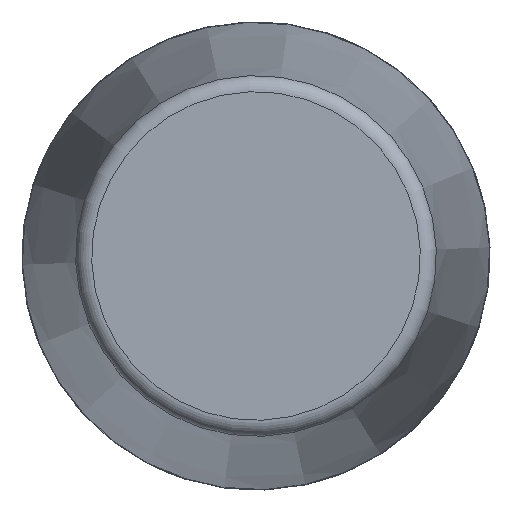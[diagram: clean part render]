
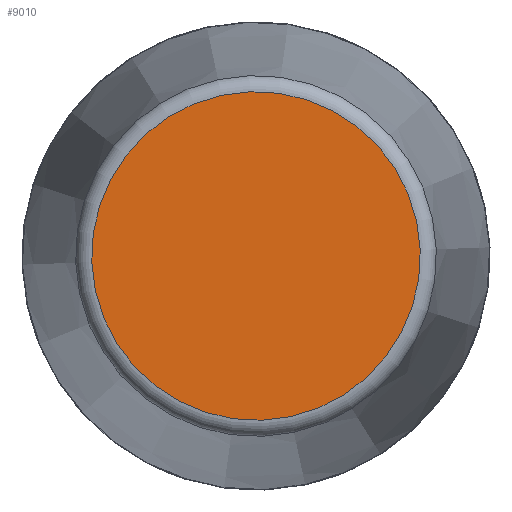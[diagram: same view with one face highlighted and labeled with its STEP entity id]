
A CAD part, front view. The second image highlights one B-rep face of the part: STEP entity #9010.
In plain terms, the highlighted planar face has unit normal (0, -1, 0) as drawn and (1, 0, 0) by its records, which use the part's own axes.
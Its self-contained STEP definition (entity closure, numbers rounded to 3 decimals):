
#260=PLANE('',#9358);
#3119=FACE_OUTER_BOUND('',#3687,.T.);
#3687=EDGE_LOOP('',(#8491));
#3716=CIRCLE('',#9354,50.878);
#4596=VERTEX_POINT('',#16957);
#5897=EDGE_CURVE('',#4596,#4596,#3716,.T.);
#8491=ORIENTED_EDGE('',*,*,#5897,.F.);
#9010=ADVANCED_FACE('',(#3119),#260,.T.);
#9354=AXIS2_PLACEMENT_3D('',#16958,#10664,#10665);
#9358=AXIS2_PLACEMENT_3D('',#16964,#10672,#10673);
#10664=DIRECTION('center_axis',(-1.,0.,0.));
#10665=DIRECTION('ref_axis',(0.,0.,
1.));
#10672=DIRECTION('center_axis',(1.,0.,0.));
#10673=DIRECTION('ref_axis',(0.,0.,-1.));
#16957=CARTESIAN_POINT('',(269.,0.,-50.878));
#16958=CARTESIAN_POINT('Origin',(269.,0.,0.));
#16964=CARTESIAN_POINT('Origin',(269.,0.,0.));
